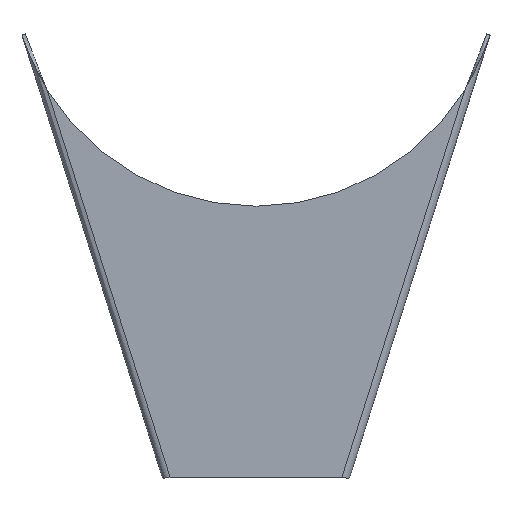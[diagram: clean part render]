
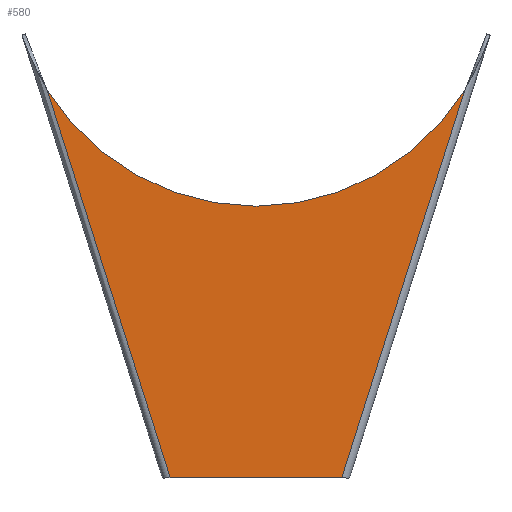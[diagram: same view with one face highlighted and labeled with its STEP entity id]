
A CAD part, top view. The second image highlights one B-rep face of the part: STEP entity #580.
In plain terms, the highlighted planar face has unit normal (0, 0, 1).
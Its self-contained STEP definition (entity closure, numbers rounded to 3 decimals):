
#11 = VERTEX_POINT ( 'NONE', #228 ) ;
#39 = EDGE_CURVE ( 'NONE', #850, #11, #375, .T. ) ;
#42 = ORIENTED_EDGE ( 'NONE', *, *, #388, .T. ) ;
#45 = DIRECTION ( 'NONE',  ( 0.302, -0.953, 0. ) ) ;
#102 = CARTESIAN_POINT ( 'NONE',  ( 66.415, -400., 2.5 ) ) ;
#106 = ORIENTED_EDGE ( 'NONE', *, *, #39, .T. ) ;
#160 = EDGE_CURVE ( 'NONE', #469, #733, #667, .T. ) ;
#204 = CARTESIAN_POINT ( 'NONE',  ( -175.586, -55.67, 2.5 ) ) ;
#219 = DIRECTION ( 'NONE',  ( 1., 0., 0. ) ) ;
#228 = CARTESIAN_POINT ( 'NONE',  ( -161.506, -100.079, 2.5 ) ) ;
#292 = CARTESIAN_POINT ( 'NONE',  ( 66.415, -400., 2.5 ) ) ;
#294 = AXIS2_PLACEMENT_3D ( 'NONE', #549, #311, #598 ) ;
#311 = DIRECTION ( 'NONE',  ( 0., 0., -1. ) ) ;
#342 = DIRECTION ( 'NONE',  ( 0.302, 0.953, 0. ) ) ;
#374 = CARTESIAN_POINT ( 'NONE',  ( -72.5, -400., 2.5 ) ) ;
#375 = CIRCLE ( 'NONE', #294, 190. ) ;
#383 = EDGE_CURVE ( 'NONE', #11, #469, #400, .T. ) ;
#384 = CARTESIAN_POINT ( 'NONE',  ( 161.506, -100.079, 2.5 ) ) ;
#388 = EDGE_CURVE ( 'NONE', #733, #850, #417, .T. ) ;
#400 = LINE ( 'NONE', #204, #477 ) ;
#409 = DIRECTION ( 'NONE',  ( 1., 0., 0. ) ) ;
#411 = EDGE_LOOP ( 'NONE', ( #790, #42, #106, #550 ) ) ;
#417 = LINE ( 'NONE', #292, #855 ) ;
#418 = CARTESIAN_POINT ( 'NONE',  ( -66.415, -400., 2.5 ) ) ;
#469 = VERTEX_POINT ( 'NONE', #418 ) ;
#477 = VECTOR ( 'NONE', #45, 1000. ) ;
#480 = CARTESIAN_POINT ( 'NONE',  ( 0., 0., 2.5 ) ) ;
#508 = FACE_OUTER_BOUND ( 'NONE', #411, .T. ) ;
#549 = CARTESIAN_POINT ( 'NONE',  ( 0., 0., 2.5 ) ) ;
#550 = ORIENTED_EDGE ( 'NONE', *, *, #383, .T. ) ;
#580 = ADVANCED_FACE ( 'NONE', ( #508 ), #613, .T. ) ;
#598 = DIRECTION ( 'NONE',  ( 1., 0., 0. ) ) ;
#613 = PLANE ( 'NONE',  #861 ) ;
#641 = VECTOR ( 'NONE', #409, 1000. ) ;
#667 = LINE ( 'NONE', #374, #641 ) ;
#686 = DIRECTION ( 'NONE',  ( 0., 0., 1. ) ) ;
#733 = VERTEX_POINT ( 'NONE', #102 ) ;
#790 = ORIENTED_EDGE ( 'NONE', *, *, #160, .T. ) ;
#850 = VERTEX_POINT ( 'NONE', #384 ) ;
#855 = VECTOR ( 'NONE', #342, 1000. ) ;
#861 = AXIS2_PLACEMENT_3D ( 'NONE', #480, #686, #219 ) ;
